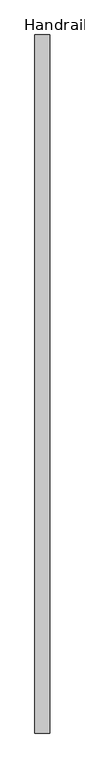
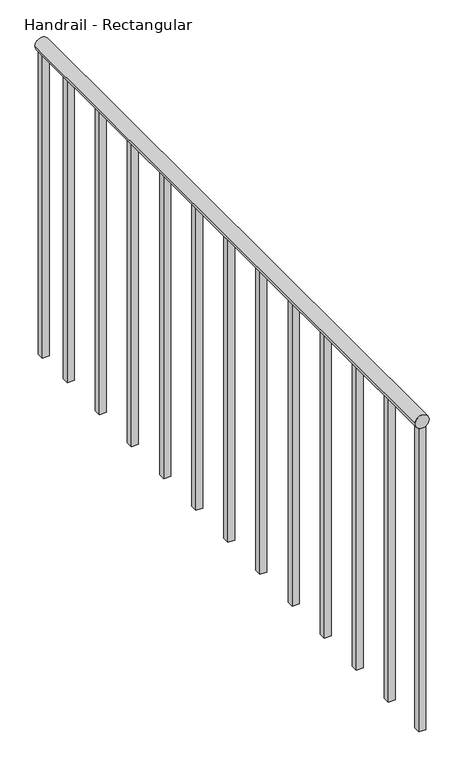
"""IFC4 building model written with IfcOpenShell, lengths in millimetres: railing geometry, Handrail - Rectangular."""

import ifcopenshell
import ifcopenshell.guid

model = None  # the IFC model being written
_history = None  # IfcOwnerHistory: only IFC2X3 demands one
_inside = {}  # id of a spatial element -> (the spatial element, [elements in it])
_under = {}  # id of a project, library or spatial element -> (it, [spatial elements below it])
_declared = {}  # id of a project -> (the project, [libraries it declares])
_typed = {}  # id of a type object -> (the type object, [elements of that type])
_made_of = {}  # id of a material, layer set ... -> (it, [elements and type objects made of it])


def new_model(schema):
    """Start an empty IFC model of exactly this schema.

    Asked for "IFC4X3", IfcOpenShell would pick the latest addendum, in which some entities
    have other attributes; the version numbers below select the first issue.
    IFC2X3 requires an IfcOwnerHistory on every rooted entity: one is made here for all.
    """
    global model, _history
    if schema == "IFC4X3":
        model = ifcopenshell.file(schema_version=(4, 3, 0, 0))
    else:
        model = ifcopenshell.file(schema=schema)
    _inside.clear()
    _under.clear()
    _declared.clear()
    _typed.clear()
    _made_of.clear()
    _history = None
    if model.schema == "IFC2X3":
        org = make("IfcOrganization", Name="unknown")
        user = make(
            "IfcPersonAndOrganization",
            ThePerson=make("IfcPerson", FamilyName="unknown"),
            TheOrganization=org,
        )
        app = make(
            "IfcApplication",
            ApplicationDeveloper=org,
            Version="unknown",
            ApplicationFullName="unknown",
            ApplicationIdentifier="unknown",
        )
        _history = make(
            "IfcOwnerHistory",
            OwningUser=user,
            OwningApplication=app,
            ChangeAction="ADDED",
            CreationDate=0,
        )
    return model


def make(cls, **values):
    """One entity of the class cls with the attributes given. An attribute that is None is left unset."""
    return model.create_entity(
        cls, **{name: value for name, value in values.items() if value is not None}
    )


def rooted(cls, **values):
    """An entity with a GlobalId (a new one), such as an element, a storey or a relation."""
    return make(cls, GlobalId=ifcopenshell.guid.new(), OwnerHistory=_history, **values)


def si_unit(unit_type, name, prefix=None):
    """IfcSIUnit, for example si_unit("LENGTHUNIT", "METRE", prefix="MILLI")."""
    return make("IfcSIUnit", UnitType=unit_type, Prefix=prefix, Name=name)


def assignment(units):
    """IfcUnitAssignment: the units of a project."""
    return None if units is None else make("IfcUnitAssignment", Units=units)


def point(xyz):
    """IfcCartesianPoint."""
    return None if xyz is None else make("IfcCartesianPoint", Coordinates=xyz)


def direction(xyz):
    """IfcDirection."""
    return None if xyz is None else make("IfcDirection", DirectionRatios=xyz)


def frame(location, z_axis=None, x_axis=None):
    """IfcAxis2Placement3D, a coordinate frame: its origin and axes. An axis left out is left unset."""
    return make(
        "IfcAxis2Placement3D",
        Location=point(location),
        Axis=direction(z_axis),
        RefDirection=direction(x_axis),
    )


def frame_2d(location, x_axis=None):
    """IfcAxis2Placement2D, a coordinate frame in the plane: its origin and x axis."""
    return make(
        "IfcAxis2Placement2D", Location=point(location), RefDirection=direction(x_axis)
    )


def origin():
    """The frame at (0, 0, 0) with its axes left unset."""
    return frame((0.0, 0.0, 0.0))


def place(relative_to, where):
    """IfcLocalPlacement: puts the frame where relative to a parent placement (None: the world)."""
    return make(
        "IfcLocalPlacement", PlacementRelTo=relative_to, RelativePlacement=where
    )


def context(
    kind, dimensions, precision=None, world=None, true_north=None, identifier=None
):
    """IfcGeometricRepresentationContext, for example the 3D "Model" context."""
    return make(
        "IfcGeometricRepresentationContext",
        ContextIdentifier=identifier,
        ContextType=kind,
        CoordinateSpaceDimension=dimensions,
        Precision=precision,
        WorldCoordinateSystem=world,
        TrueNorth=true_north,
    )


def project(units=None, contexts=None):
    """IfcProject with its units and contexts."""
    return rooted(
        "IfcProject",
        Name="project",
        RepresentationContexts=contexts,
        UnitsInContext=assignment(units),
    )


def spatial(cls, under=None, at=None, **own):
    """A site, building, storey or space (cls), placed at a placement, below another one or the project."""
    s = rooted(cls, ObjectPlacement=at, **own)
    if under is not None:
        _under.setdefault(under.id(), (under, []))[1].append(s)
    return s


def polyline(points):
    """IfcPolyline through the points."""
    return make("IfcPolyline", Points=[point(p) for p in points])


def circle_curve(where, radius):
    """IfcCircle in the frame where."""
    return make("IfcCircle", Position=where, Radius=radius)


def trimmed(basis, trim1, trim2, sense, master):
    """IfcTrimmedCurve: the piece of a basis curve between two trims."""
    return make(
        "IfcTrimmedCurve",
        BasisCurve=basis,
        Trim1=trim1,
        Trim2=trim2,
        SenseAgreement=sense,
        MasterRepresentation=master,
    )


def segment(curve, same_sense, transition):
    """IfcCompositeCurveSegment."""
    return make(
        "IfcCompositeCurveSegment",
        Transition=transition,
        SameSense=same_sense,
        ParentCurve=curve,
    )


def composite_curve(segments, self_intersect=None):
    """IfcCompositeCurve: segments joined end to end."""
    return make("IfcCompositeCurve", Segments=segments, SelfIntersect=self_intersect)


def outline(outer, holes=None, kind="AREA"):
    """IfcArbitraryClosedProfileDef: a profile drawn as a closed curve; with holes, ...WithVoids."""
    if holes is None:
        return make("IfcArbitraryClosedProfileDef", ProfileType=kind, OuterCurve=outer)
    return make(
        "IfcArbitraryProfileDefWithVoids",
        ProfileType=kind,
        OuterCurve=outer,
        InnerCurves=holes,
    )


def extrude(swept, where, along, depth):
    """IfcExtrudedAreaSolid: the profile swept, set in the frame where, extruded along a direction by depth."""
    return make(
        "IfcExtrudedAreaSolid",
        SweptArea=swept,
        Position=where,
        ExtrudedDirection=direction(along),
        Depth=depth,
    )


def shape(context_of_items, identifier, shape_type, items):
    """IfcShapeRepresentation: the items that make up one representation, for example the "Body"."""
    return make(
        "IfcShapeRepresentation",
        ContextOfItems=context_of_items,
        RepresentationIdentifier=identifier,
        RepresentationType=shape_type,
        Items=items,
    )


def source(mapping_origin, context_of_items, identifier, shape_type, items):
    """IfcRepresentationMap: a shape defined once, which mapped items show again and again."""
    return make(
        "IfcRepresentationMap",
        MappingOrigin=mapping_origin,
        MappedRepresentation=shape(context_of_items, identifier, shape_type, items),
    )


def transform(
    local_origin,
    x_axis=None,
    y_axis=None,
    z_axis=None,
    scale=None,
    scale2=None,
    scale3=None,
    uniform=True,
):
    """IfcCartesianTransformationOperator3D, or its non-uniform kind. x_axis, y_axis, z_axis: its Axis1, 2, 3."""
    if uniform:
        return make(
            "IfcCartesianTransformationOperator3D",
            Axis1=direction(x_axis),
            Axis2=direction(y_axis),
            LocalOrigin=point(local_origin),
            Scale=scale,
            Axis3=direction(z_axis),
        )
    return make(
        "IfcCartesianTransformationOperator3DnonUniform",
        Axis1=direction(x_axis),
        Axis2=direction(y_axis),
        LocalOrigin=point(local_origin),
        Scale=scale,
        Axis3=direction(z_axis),
        Scale2=scale2,
        Scale3=scale3,
    )


def mapped(mapping_source, mapping_target):
    """IfcMappedItem: shows the shape of a source again, moved by a transform."""
    return make(
        "IfcMappedItem", MappingSource=mapping_source, MappingTarget=mapping_target
    )


def made_of(thing, what):
    """Note that an element or type object is made of a material, layer set ...; save() writes the relation."""
    if what is not None:
        _made_of.setdefault(what.id(), (what, []))[1].append(thing)
    return thing


def element(
    cls,
    number,
    at=None,
    inside=None,
    cuts=None,
    type_object=None,
    material=None,
    context=None,
    identifier="Body",
    shape_type=None,
    held_by="IfcProductDefinitionShape",
    body=None,
    shapes=None,
    **own,
):
    """One element of the class cls, such as IfcWall. Its Tag is "e" and its number.

    at: its placement. inside: the storey or other place that contains it. cuts: it is an
    opening in that element (IfcRelVoidsElement). A single representation is given by context,
    identifier, shape_type and body (its items); several are given by shapes. held_by: the class
    of the entity that holds the representations. save() writes the other relations.
    """
    e = rooted(cls, Tag="e%d" % number, ObjectPlacement=at, **own)
    if body is not None:
        shapes = [shape(context, identifier, shape_type, body)]
    if shapes is not None:
        e.Representation = make(held_by, Representations=shapes)
    if inside is not None:
        _inside.setdefault(inside.id(), (inside, []))[1].append(e)
    if cuts is not None:
        rooted(
            "IfcRelVoidsElement", RelatingBuildingElement=cuts, RelatedOpeningElement=e
        )
    if type_object is not None:
        _typed.setdefault(type_object.id(), (type_object, []))[1].append(e)
    return made_of(e, material)


def aggregate(whole, parts):
    """IfcRelAggregates: a whole, such as a stair, and the parts it consists of."""
    return rooted("IfcRelAggregates", RelatingObject=whole, RelatedObjects=parts)


def save(model, path):
    """Write the relations noted so far, then the file.

    IfcRelAggregates (storeys below a building ...), IfcRelContainedInSpatialStructure (elements
    in a storey), IfcRelDefinesByType, IfcRelAssociatesMaterial and IfcRelDeclares: one each for
    every whole, place, type object, material and project.
    """
    for whole, parts in _under.values():
        aggregate(whole, parts)
    for where, things in _inside.values():
        rooted(
            "IfcRelContainedInSpatialStructure",
            RelatedElements=things,
            RelatingStructure=where,
        )
    for kind, things in _typed.values():
        rooted("IfcRelDefinesByType", RelatedObjects=things, RelatingType=kind)
    for what, things in _made_of.values():
        rooted("IfcRelAssociatesMaterial", RelatedObjects=things, RelatingMaterial=what)
    for by, libraries in _declared.values():
        rooted("IfcRelDeclares", RelatingContext=by, RelatedDefinitions=libraries)
    model.write(path)


def handrail_rectangular_d45e78c5(model_context):
    return source(origin(), model_context, "Body", "SweptSolid", [
        extrude(outline(composite_curve([segment(trimmed(circle_curve(frame_2d((10039.35, -32167.4839563)), 19.05), [point((10039.35, -32186.5339563))], [point((10039.35, -32148.4339563))], False, "CARTESIAN"), True, "CONTINUOUS"), segment(trimmed(circle_curve(frame_2d((10039.35, -32167.4839563)), 19.05), [point((10039.35, -32148.4339563))], [point((10039.35, -32186.5339563))], False, "CARTESIAN"), True, "CONTINUOUS")], self_intersect=False)), frame((0.0, -33825.9683133, 0.0), z_axis=(0.0, 1.0, 0.0), x_axis=(0.0, 0.0, 1.0)), (0.0, 0.0, 1.0), 1803.4),
        extrude(outline(polyline([(-32157.9589563, -32159.0933133), (-32177.0089563, -32159.0933133), (-32177.0089563, -32140.0433133), (-32157.9589563, -32140.0433133), (-32157.9589563, -32159.0933133)])), frame((0.0, 0.0, 9144.0), z_axis=(0.0, 0.0, 1.0), x_axis=(1.0, 0.0, 0.0)), (0.0, 0.0, 1.0), 876.3),
        extrude(outline(polyline([(-32157.9589563, -32311.4933133), (-32177.0089563, -32311.4933133), (-32177.0089563, -32292.4433133), (-32157.9589563, -32292.4433133), (-32157.9589563, -32311.4933133)])), frame((0.0, 0.0, 9144.0), z_axis=(0.0, 0.0, 1.0), x_axis=(1.0, 0.0, 0.0)), (0.0, 0.0, 1.0), 876.3),
        extrude(outline(polyline([(-32157.9589563, -32463.8933133), (-32177.0089563, -32463.8933133), (-32177.0089563, -32444.8433133), (-32157.9589563, -32444.8433133), (-32157.9589563, -32463.8933133)])), frame((0.0, 0.0, 9144.0), z_axis=(0.0, 0.0, 1.0), x_axis=(1.0, 0.0, 0.0)), (0.0, 0.0, 1.0), 876.3),
        extrude(outline(polyline([(-32157.9589563, -32616.2933133), (-32177.0089563, -32616.2933133), (-32177.0089563, -32597.2433133), (-32157.9589563, -32597.2433133), (-32157.9589563, -32616.2933133)])), frame((0.0, 0.0, 9144.0), z_axis=(0.0, 0.0, 1.0), x_axis=(1.0, 0.0, 0.0)), (0.0, 0.0, 1.0), 876.3),
        extrude(outline(polyline([(-32157.9589563, -32768.6933133), (-32177.0089563, -32768.6933133), (-32177.0089563, -32749.6433133), (-32157.9589563, -32749.6433133), (-32157.9589563, -32768.6933133)])), frame((0.0, 0.0, 9144.0), z_axis=(0.0, 0.0, 1.0), x_axis=(1.0, 0.0, 0.0)), (0.0, 0.0, 1.0), 876.3),
        extrude(outline(polyline([(-32157.9589563, -32921.0933133), (-32177.0089563, -32921.0933133), (-32177.0089563, -32902.0433133), (-32157.9589563, -32902.0433133), (-32157.9589563, -32921.0933133)])), frame((0.0, 0.0, 9144.0), z_axis=(0.0, 0.0, 1.0), x_axis=(1.0, 0.0, 0.0)), (0.0, 0.0, 1.0), 876.3),
        extrude(outline(polyline([(-32157.9589563, -33073.4933133), (-32177.0089563, -33073.4933133), (-32177.0089563, -33054.4433133), (-32157.9589563, -33054.4433133), (-32157.9589563, -33073.4933133)])), frame((0.0, 0.0, 9144.0), z_axis=(0.0, 0.0, 1.0), x_axis=(1.0, 0.0, 0.0)), (0.0, 0.0, 1.0), 876.3),
        extrude(outline(polyline([(-32157.9589563, -33225.8933133), (-32177.0089563, -33225.8933133), (-32177.0089563, -33206.8433133), (-32157.9589563, -33206.8433133), (-32157.9589563, -33225.8933133)])), frame((0.0, 0.0, 9144.0), z_axis=(0.0, 0.0, 1.0), x_axis=(1.0, 0.0, 0.0)), (0.0, 0.0, 1.0), 876.3),
        extrude(outline(polyline([(-32157.9589563, -33378.2933133), (-32177.0089563, -33378.2933133), (-32177.0089563, -33359.2433133), (-32157.9589563, -33359.2433133), (-32157.9589563, -33378.2933133)])), frame((0.0, 0.0, 9144.0), z_axis=(0.0, 0.0, 1.0), x_axis=(1.0, 0.0, 0.0)), (0.0, 0.0, 1.0), 876.3),
        extrude(outline(polyline([(-32157.9589563, -33530.6933133), (-32177.0089563, -33530.6933133), (-32177.0089563, -33511.6433133), (-32157.9589563, -33511.6433133), (-32157.9589563, -33530.6933133)])), frame((0.0, 0.0, 9144.0), z_axis=(0.0, 0.0, 1.0), x_axis=(1.0, 0.0, 0.0)), (0.0, 0.0, 1.0), 876.3),
        extrude(outline(polyline([(-32157.9589563, -33683.0933133), (-32177.0089563, -33683.0933133), (-32177.0089563, -33664.0433133), (-32157.9589563, -33664.0433133), (-32157.9589563, -33683.0933133)])), frame((0.0, 0.0, 9144.0), z_axis=(0.0, 0.0, 1.0), x_axis=(1.0, 0.0, 0.0)), (0.0, 0.0, 1.0), 876.3),
        extrude(outline(polyline([(-32157.9589563, -32041.6183133), (-32177.0089563, -32041.6183133), (-32177.0089563, -32022.5683133), (-32157.9589563, -32022.5683133), (-32157.9589563, -32041.6183133)])), frame((0.0, 0.0, 9144.0), z_axis=(0.0, 0.0, 1.0), x_axis=(1.0, 0.0, 0.0)), (0.0, 0.0, 1.0), 876.3),
        extrude(outline(polyline([(-32157.9589563, -33825.9683133), (-32177.0089563, -33825.9683133), (-32177.0089563, -33806.9183133), (-32157.9589563, -33806.9183133), (-32157.9589563, -33825.9683133)])), frame((0.0, 0.0, 9144.0), z_axis=(0.0, 0.0, 1.0), x_axis=(1.0, 0.0, 0.0)), (0.0, 0.0, 1.0), 876.3),
    ])


if __name__ == "__main__":
    model = new_model("IFC4")
    model_context = context("Model", 3, world=origin())
    ifc_project = project(units=[si_unit("LENGTHUNIT", "METRE", prefix="MILLI")], contexts=[model_context])
    site = spatial("IfcSite", under=ifc_project)
    building = spatial("IfcBuilding", under=site)
    placement = place(None, origin())
    handrail_rectangular_shape = handrail_rectangular_d45e78c5(model_context)
    element("IfcRailing", 1, ObjectType="Handrail - Rectangular", at=placement, inside=building, context=model_context, shape_type="MappedRepresentation", body=[
        mapped(handrail_rectangular_shape, transform((0.0, 0.0, 0.0), x_axis=(1.0, 0.0, 0.0), y_axis=(0.0, 1.0, 0.0), z_axis=(0.0, 0.0, 1.0))),
    ])
    save(model, "model.ifc")
